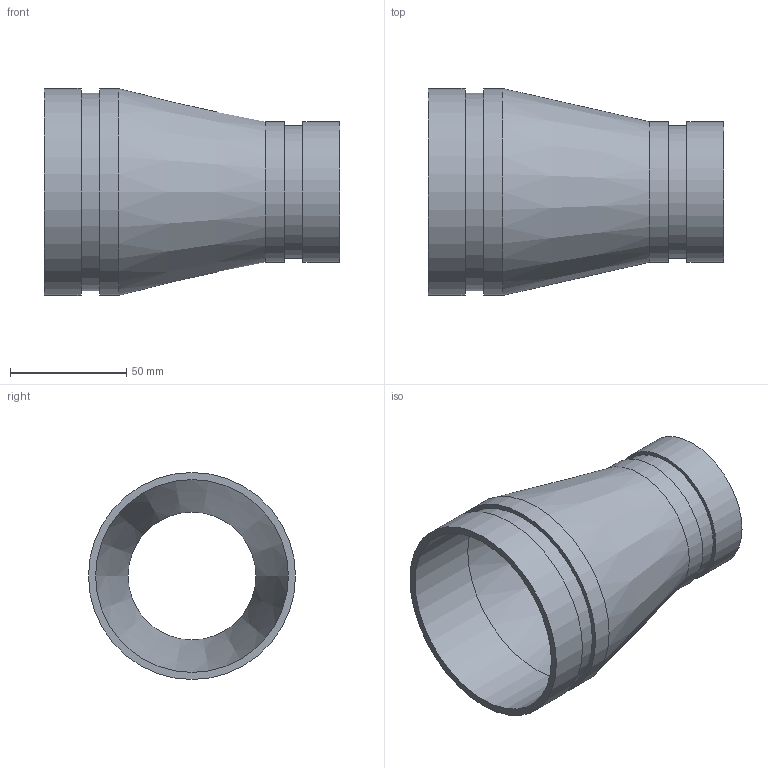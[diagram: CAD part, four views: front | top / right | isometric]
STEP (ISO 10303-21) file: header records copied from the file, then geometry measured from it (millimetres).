
FILE_DESCRIPTION(/* description */ ('VIC REDUCER CONCENTRIC No 450-SS','CAx-IF Rec.Pracs.---Representation and Presentation of Product Manufacturing Information (PMI)---4.0---2014-10-13'),/* implementation_level */ '2;1');
FILE_NAME(/* name */ 'C:\Users\kkamble\AppData\Roaming\Autodesk\ApplicationPlugins\Back Up\Victaulic_SS-OGS_Reducer Concentric_Sched 10S_No 450 SS (OGS)\Victaulic_SS-OGS_Reducer Concentric_Sched 10S_No 450 SS (OGS)_03.0x02.0 (80x50).stp',/* time_stamp */ '2020-09-08T12:32:44+05:00',/* author */ ('CORINNE GRAY'),/* organization */ ('Victaulic'),/* preprocessor_version */ 'ST-DEVELOPER v17.2',/* originating_system */ 'Autodesk Inventor 2019',/* authorisation */ '');
FILE_SCHEMA (('AP242_MANAGED_MODEL_BASED_3D_ENGINEERING_MIM_LF { 1 0 10303 442 1 1 4 }'));
Length unit declared in the file: inch
Products named in the file (1): 450 SS-03.0x02.0
Bounding box: 127 x 88.9 x 88.9 mm (x, y, z)
Volume: 76648.7 mm3; surface area: 60744.4 mm2
Topology: 1 solids, 1 shells, 16 faces, 42 edges, 32 vertices
Faces by surface type: cylinder 8, plane 6, cone 2
Full cylindrical faces by diameter (mm): 54.864 x1, 57.15 x1, 60.325 x2, 82.804 x1, 84.938 x1, 88.9 x2
Entity records: 686 total; most frequent: DIRECTION 134, CARTESIAN_POINT 108, ORIENTED_EDGE 84, AXIS2_PLACEMENT_3D 62, EDGE_CURVE 42, CIRCLE 32, VERTEX_POINT 32, EDGE_LOOP 22
